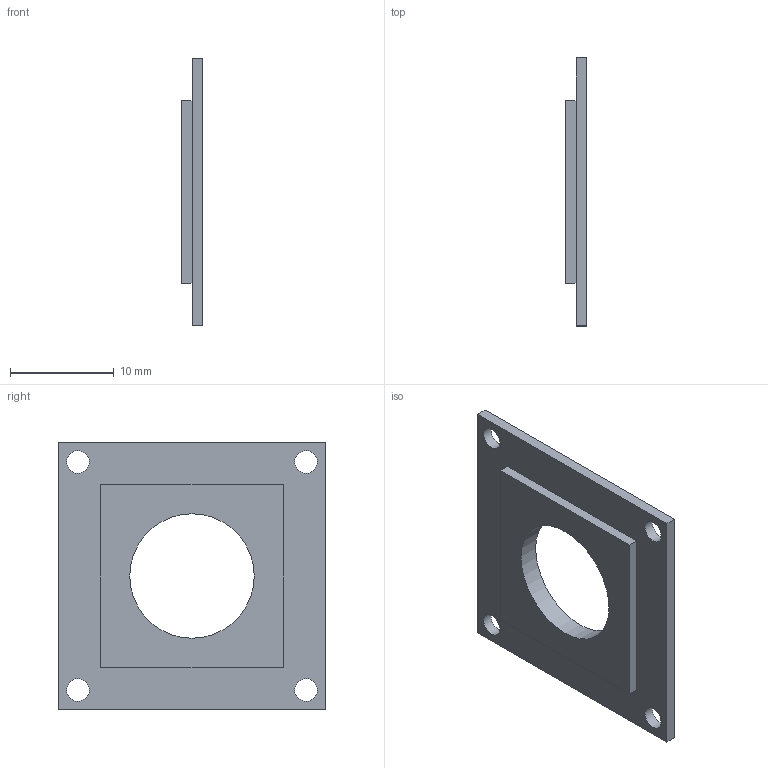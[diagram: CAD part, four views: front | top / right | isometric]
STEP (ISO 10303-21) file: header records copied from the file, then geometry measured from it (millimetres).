
FILE_DESCRIPTION(('Open CASCADE Model'),'2;1');
FILE_NAME('Open CASCADE Shape Model','2026-11-09T21:30:06',('Author'),( 'Open CASCADE'),'Open CASCADE STEP processor 8.0','Open CASCADE 8.0' ,'Unknown');
FILE_SCHEMA(('AUTOMOTIVE_DESIGN { 1 0 10303 214 1 1 1 1 }'));
Length unit declared in the file: millimetre
Products named in the file (1): Open CASCADE STEP translator 8.0 5
Bounding box: 2 x 25.8 x 25.8 mm (x, y, z)
Volume: 734 mm3; surface area: 1351.3 mm2
Topology: 1 solids, 1 shells, 16 faces, 39 edges, 26 vertices
Faces by surface type: plane 11, cylinder 5
Full cylindrical faces by diameter (mm): 2.2 x4, 12 x1
Entity records: 1002 total; most frequent: CARTESIAN_POINT 168, DIRECTION 153, LINE 89, VECTOR 89, ORIENTED_EDGE 78, PCURVE 78, DEFINITIONAL_REPRESENTATION 78, EDGE_CURVE 39
